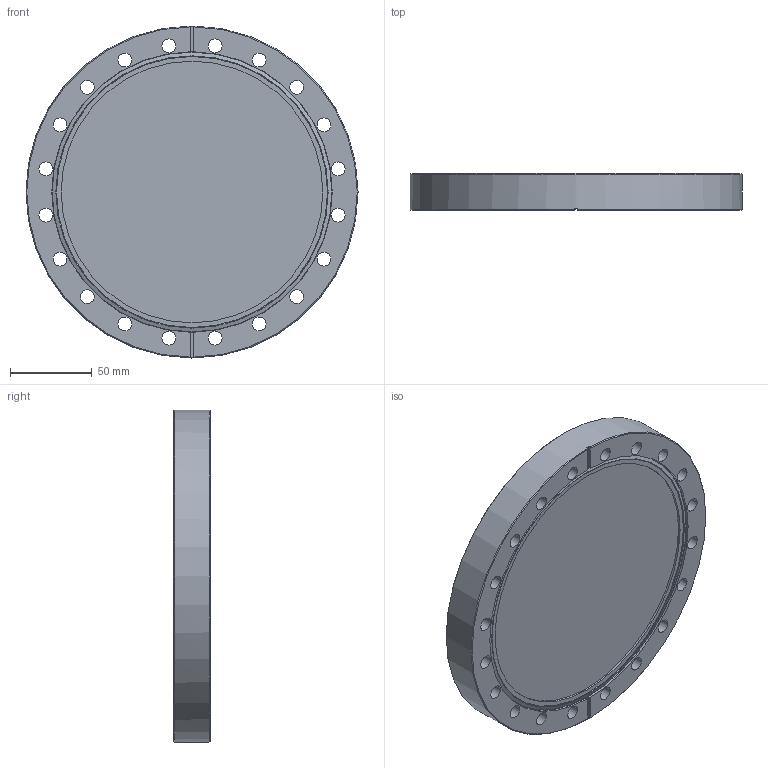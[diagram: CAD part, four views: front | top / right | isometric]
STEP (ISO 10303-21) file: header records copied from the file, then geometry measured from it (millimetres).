
FILE_DESCRIPTION(/* description */ (''),/* implementation_level */ '2;1');
FILE_NAME(/* name */ '',/* time_stamp */ '2024-03-05T11:16:32+09:00',/* author */ (''),/* organization */ (''),/* preprocessor_version */ 'ST-DEVELOPER v20',/* originating_system */ 'Autodesk Translation Framework v12.20.1.177',/* authorisation */ '');
FILE_SCHEMA (('AUTOMOTIVE_DESIGN { 1 0 10303 214 3 1 1 }'));
Length unit declared in the file: millimetre
Products named in the file (1): 2107-4143 ICF203(t22.4)ブランク(BeCu)溝あり
Bounding box: 203 x 22.4 x 203 mm (x, y, z)
Volume: 646171.2 mm3; surface area: 89996.5 mm2
Topology: 1 solids, 1 shells, 42 faces, 117 edges, 78 vertices
Faces by surface type: cylinder 24, plane 11, cone 4, torus 3
Full cylindrical faces by diameter (mm): 8.4 x20, 160 x1, 166.1 x1, 171.5 x1, 203 x1
Entity records: 1514 total; most frequent: DIRECTION 274, CARTESIAN_POINT 238, ORIENTED_EDGE 234, EDGE_CURVE 117, AXIS2_PLACEMENT_3D 114, EDGE_LOOP 83, VERTEX_POINT 78, CIRCLE 71
